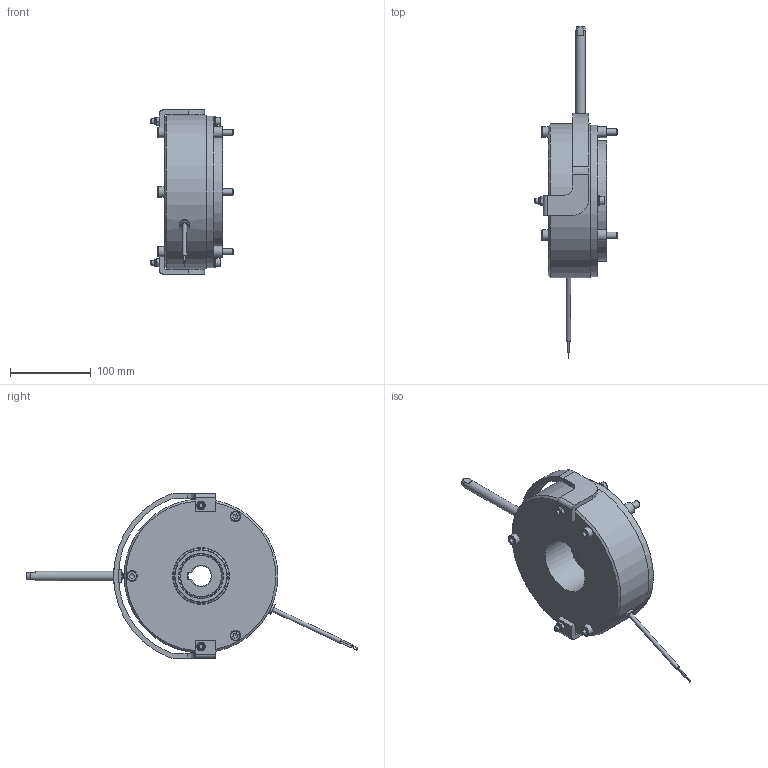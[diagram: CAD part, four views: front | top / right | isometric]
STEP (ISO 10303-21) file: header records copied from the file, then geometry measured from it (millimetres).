
FILE_DESCRIPTION(/* description */ (''),/* implementation_level */ '2;1');
FILE_NAME(/* name */ 'C:\SapWorkDir\Inventor\IP1\ConvertTempPath\5028584_IPT_000.ipt.stp',/* time_stamp */ '2020-09-03T11:52:34+02:00',/* author */ ('STRATE'),/* organization */ (''),/* preprocessor_version */ 'ST-DEVELOPER v17',/* originating_system */ 'Autodesk Inventor 2018',/* authorisation */ '');
FILE_SCHEMA (('AUTOMOTIVE_DESIGN { 1 0 10303 214 3 1 1 }'));
Length unit declared in the file: millimetre
Products named in the file (1): 5028584
Bounding box: 101.4 x 409.81 x 203 mm (x, y, z)
Volume: 1765812.2 mm3; surface area: 243209.7 mm2
Topology: 3 solids, 3 shells, 532 faces, 1482 edges, 994 vertices
Faces by surface type: cylinder 293, plane 136, cone 87, torus 14, bspline 2
Full cylindrical faces by diameter (mm): 1 x2, 1.85 x2, 4.917 x2, 5 x1, 5.3 x1, 6 x10, 6.4 x2, 7 x1, 7.3 x2, 8 x5, 8.4 x3, 8.5 x3, 9 x3, 10 x4, 12 x3, 13 x3, 13.2 x1, 13.8 x3, 14 x1, 14.5 x6, 70 x2, 103.8 x2, 104.1 x2, 149 x1, 187 x1, 190 x1
Entity records: 23659 total; most frequent: CARTESIAN_POINT 9286, ORIENTED_EDGE 2958, DIRECTION 2876, EDGE_CURVE 1479, AXIS2_PLACEMENT_3D 1201, VERTEX_POINT 994, CIRCLE 670, EDGE_LOOP 617
